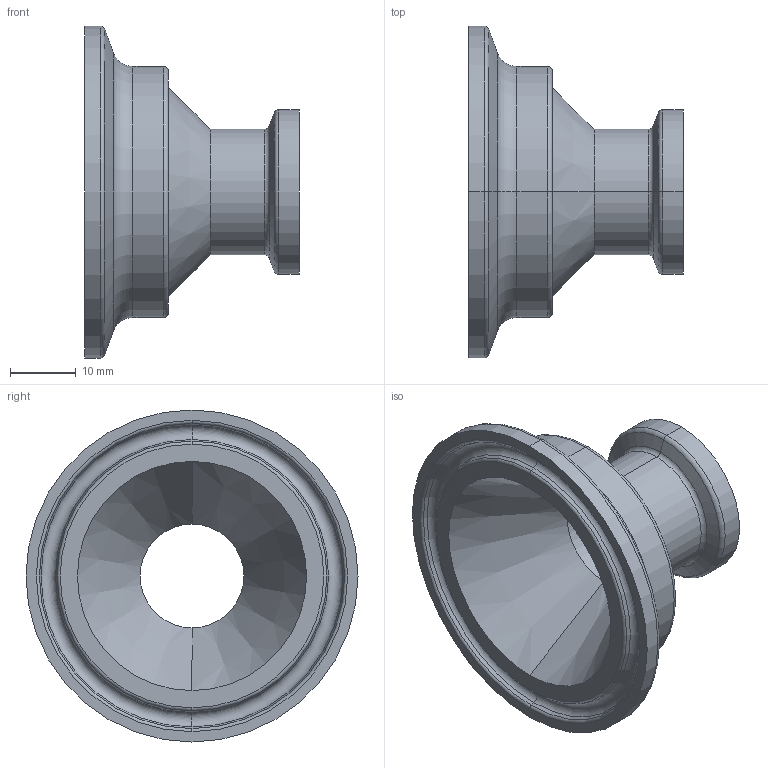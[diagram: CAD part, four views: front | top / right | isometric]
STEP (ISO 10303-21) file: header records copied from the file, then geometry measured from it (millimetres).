
FILE_DESCRIPTION (( 'STEP AP203' ), '1' );
FILE_NAME ('TEG31I6L1.5X.75.STEP', '2021-10-14T18:20:36', ( '' ), ( '' ), 'SwSTEP 2.0', 'SolidWorks 2021', '' );
FILE_SCHEMA (( 'CONFIG_CONTROL_DESIGN' ));
Length unit declared in the file: inch
Products named in the file (1): TEG31I6L1.5X.75
Bounding box: 32.54 x 50.39 x 50.39 mm (x, y, z)
Volume: 13565.5 mm3; surface area: 8183 mm2
Topology: 1 solids, 1 shells, 53 faces, 106 edges, 58 vertices
Faces by surface type: torus 22, cone 14, cylinder 12, plane 5
Entity records: 1459 total; most frequent: DIRECTION 294, CARTESIAN_POINT 218, ORIENTED_EDGE 212, AXIS2_PLACEMENT_3D 134, EDGE_CURVE 106, CIRCLE 80, VERTEX_POINT 58, EDGE_LOOP 58
